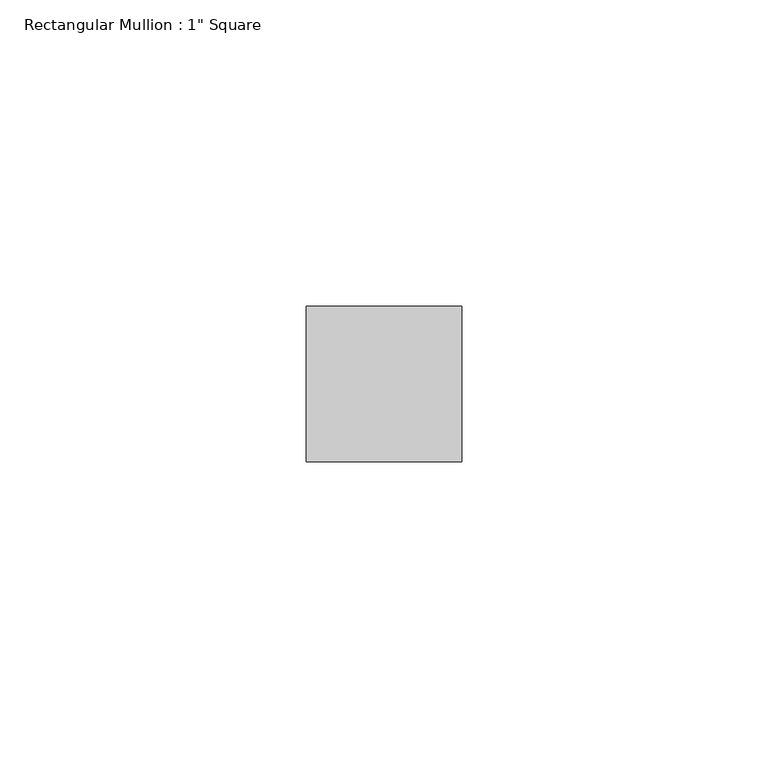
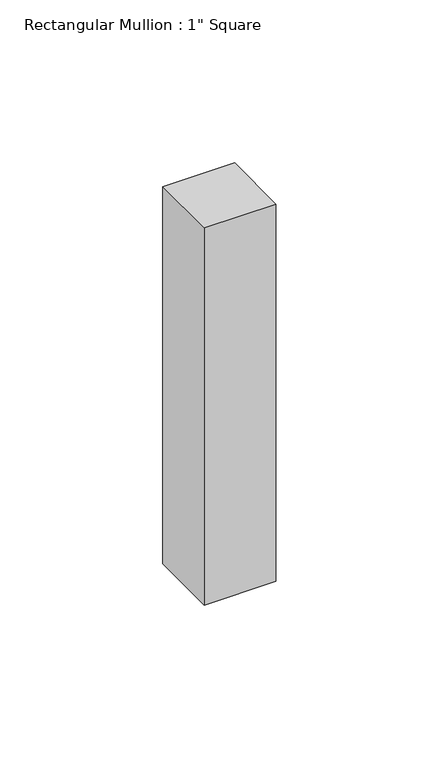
"""IFC4 building model written with IfcOpenShell, lengths in millimetres: member geometry."""

from ifc_helpers import new_model, si_unit, frame, origin, place, context, project, spatial, polyline, outline, extrude, source, transform, mapped, element, save


def member_9272082a(model_context):
    return source(origin(), model_context, "Body", "SweptSolid", [
        extrude(outline(polyline([(12.7, 12.7), (12.7, -12.7), (-12.7, -12.7), (-12.7, 12.7), (12.7, 12.7)])), frame((0.0, 0.0, -141.3880835), z_axis=(0.0, 0.0, 1.0), x_axis=(1.0, 0.0, 0.0)), (0.0, 0.0, 1.0), 141.3880835),
    ])


if __name__ == "__main__":
    model = new_model("IFC4")
    model_context = context("Model", 3, world=origin())
    ifc_project = project(units=[si_unit("LENGTHUNIT", "METRE", prefix="MILLI")], contexts=[model_context])
    site = spatial("IfcSite", under=ifc_project)
    building = spatial("IfcBuilding", under=site)
    placement = place(None, origin())
    member_shape = member_9272082a(model_context)
    element("IfcMember", 1, ObjectType="Rectangular Mullion : 1\" Square", at=placement, inside=building, context=model_context, shape_type="MappedRepresentation", body=[
        mapped(member_shape, transform((0.0, 0.0, 0.0), x_axis=(1.0, 0.0, 0.0), y_axis=(0.0, 1.0, 0.0), z_axis=(0.0, 0.0, 1.0))),
    ])
    save(model, "model.ifc")
